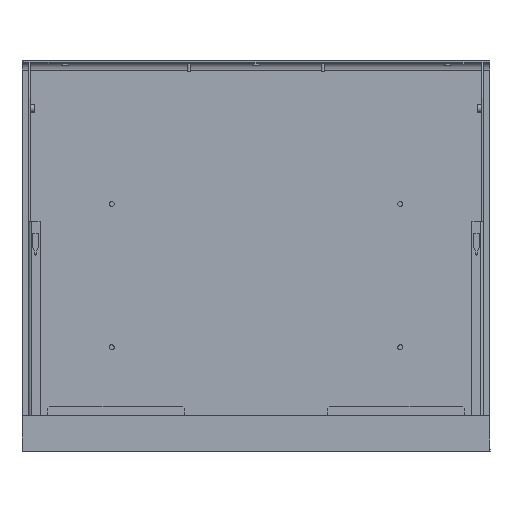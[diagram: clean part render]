
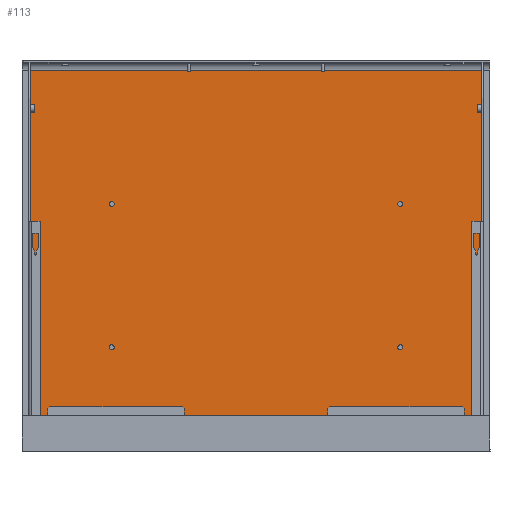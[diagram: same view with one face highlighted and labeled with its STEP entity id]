
A CAD part, front view. The second image highlights one B-rep face of the part: STEP entity #113.
In plain terms, the highlighted planar face has unit normal (0, -1, 0).
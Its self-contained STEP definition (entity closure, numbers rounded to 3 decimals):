
#58 = DIRECTION ( 'NONE',  ( 0., -1., 0. ) ) ;
#113 = ADVANCED_FACE ( 'NONE', ( #4372, #1394, #17023, #12729, #16831 ), #10106, .T. ) ;
#223 = CIRCLE ( 'NONE', #12699, 2.5 ) ;
#498 = EDGE_CURVE ( 'NONE', #11717, #2777, #11948, .T. ) ;
#1095 = DIRECTION ( 'NONE',  ( 0., 0., -1. ) ) ;
#1394 = FACE_BOUND ( 'NONE', #18074, .T. ) ;
#1573 = EDGE_CURVE ( 'NONE', #14203, #11098, #223, .T. ) ;
#1873 = CARTESIAN_POINT ( 'NONE',  ( -301.5, 88.5, 399. ) ) ;
#2156 = DIRECTION ( 'NONE',  ( 0., -1., 0. ) ) ;
#2327 = ORIENTED_EDGE ( 'NONE', *, *, #5386, .F. ) ;
#2337 = CARTESIAN_POINT ( 'NONE',  ( 86., 88.5, 259. ) ) ;
#2356 = CARTESIAN_POINT ( 'NONE',  ( 86., 88.5, 259. ) ) ;
#2568 = VERTEX_POINT ( 'NONE', #5663 ) ;
#2770 = CARTESIAN_POINT ( 'NONE',  ( -216., 88.5, 259. ) ) ;
#2777 = VERTEX_POINT ( 'NONE', #8897 ) ;
#2791 = DIRECTION ( 'NONE',  ( 1., 0., 0. ) ) ;
#2948 = DIRECTION ( 'NONE',  ( 0., -1., 0. ) ) ;
#2991 = LINE ( 'NONE', #4386, #8389 ) ;
#3008 = CARTESIAN_POINT ( 'NONE',  ( 86., 88.5, 109. ) ) ;
#3124 = ORIENTED_EDGE ( 'NONE', *, *, #14367, .T. ) ;
#3464 = AXIS2_PLACEMENT_3D ( 'NONE', #8726, #14415, #13017 ) ;
#3598 = AXIS2_PLACEMENT_3D ( 'NONE', #14196, #2948, #8603 ) ;
#3724 = DIRECTION ( 'NONE',  ( 0., 0., -1. ) ) ;
#3727 = DIRECTION ( 'NONE',  ( 0., 0., -1. ) ) ;
#3769 = AXIS2_PLACEMENT_3D ( 'NONE', #4895, #6388, #14664 ) ;
#3804 = DIRECTION ( 'NONE',  ( 0., 0., -1. ) ) ;
#3805 = VERTEX_POINT ( 'NONE', #7622 ) ;
#3897 = DIRECTION ( 'NONE',  ( 0., -1., 0. ) ) ;
#3929 = DIRECTION ( 'NONE',  ( 0., -1., 0. ) ) ;
#4185 = DIRECTION ( 'NONE',  ( 1., 0., 0. ) ) ;
#4187 = LINE ( 'NONE', #15537, #14533 ) ;
#4216 = EDGE_LOOP ( 'NONE', ( #14906, #12140, #3124, #6599 ) ) ;
#4287 = DIRECTION ( 'NONE',  ( 0., -1., 0. ) ) ;
#4372 = FACE_BOUND ( 'NONE', #5858, .T. ) ;
#4386 = CARTESIAN_POINT ( 'NONE',  ( -301.5, 88.5, 399. ) ) ;
#4580 = EDGE_CURVE ( 'NONE', #3805, #7419, #15204, .T. ) ;
#4895 = CARTESIAN_POINT ( 'NONE',  ( -216., 88.5, 259. ) ) ;
#4956 = CIRCLE ( 'NONE', #8512, 2.5 ) ;
#5386 = EDGE_CURVE ( 'NONE', #2777, #11717, #15669, .T. ) ;
#5443 = CARTESIAN_POINT ( 'NONE',  ( -216., 88.5, 111.5 ) ) ;
#5648 = EDGE_LOOP ( 'NONE', ( #12222, #18166 ) ) ;
#5663 = CARTESIAN_POINT ( 'NONE',  ( -216., 88.5, 106.5 ) ) ;
#5858 = EDGE_LOOP ( 'NONE', ( #12318, #2327 ) ) ;
#6125 = CARTESIAN_POINT ( 'NONE',  ( -216., 88.5, 261.5 ) ) ;
#6388 = DIRECTION ( 'NONE',  ( 0., -1., 0. ) ) ;
#6599 = ORIENTED_EDGE ( 'NONE', *, *, #18124, .T. ) ;
#6952 = EDGE_CURVE ( 'NONE', #11098, #14203, #12477, .T. ) ;
#7021 = CIRCLE ( 'NONE', #3464, 2.5 ) ;
#7419 = VERTEX_POINT ( 'NONE', #7477 ) ;
#7451 = AXIS2_PLACEMENT_3D ( 'NONE', #8168, #3897, #3804 ) ;
#7477 = CARTESIAN_POINT ( 'NONE',  ( 86., 88.5, 256.5 ) ) ;
#7622 = CARTESIAN_POINT ( 'NONE',  ( 86., 88.5, 261.5 ) ) ;
#8033 = VECTOR ( 'NONE', #4185, 1000. ) ;
#8168 = CARTESIAN_POINT ( 'NONE',  ( -216., 88.5, 109. ) ) ;
#8389 = VECTOR ( 'NONE', #13948, 1000. ) ;
#8428 = DIRECTION ( 'NONE',  ( 0., 0., -1. ) ) ;
#8512 = AXIS2_PLACEMENT_3D ( 'NONE', #2356, #3929, #15096 ) ;
#8603 = DIRECTION ( 'NONE',  ( 0., 0., -1. ) ) ;
#8726 = CARTESIAN_POINT ( 'NONE',  ( -216., 88.5, 109. ) ) ;
#8897 = CARTESIAN_POINT ( 'NONE',  ( -216., 88.5, 256.5 ) ) ;
#9200 = EDGE_CURVE ( 'NONE', #16865, #17854, #4187, .T. ) ;
#9375 = DIRECTION ( 'NONE',  ( 0., -1., 0. ) ) ;
#9454 = VERTEX_POINT ( 'NONE', #17106 ) ;
#9796 = CIRCLE ( 'NONE', #7451, 2.5 ) ;
#9994 = VERTEX_POINT ( 'NONE', #10962 ) ;
#10014 = EDGE_CURVE ( 'NONE', #7419, #3805, #4956, .T. ) ;
#10106 = PLANE ( 'NONE',  #15991 ) ;
#10515 = ORIENTED_EDGE ( 'NONE', *, *, #18100, .F. ) ;
#10962 = CARTESIAN_POINT ( 'NONE',  ( -301.5, 88.5, 10. ) ) ;
#11098 = VERTEX_POINT ( 'NONE', #13442 ) ;
#11717 = VERTEX_POINT ( 'NONE', #6125 ) ;
#11795 = EDGE_CURVE ( 'NONE', #2568, #17380, #7021, .T. ) ;
#11934 = ORIENTED_EDGE ( 'NONE', *, *, #10014, .F. ) ;
#11948 = CIRCLE ( 'NONE', #13490, 2.5 ) ;
#12140 = ORIENTED_EDGE ( 'NONE', *, *, #9200, .F. ) ;
#12222 = ORIENTED_EDGE ( 'NONE', *, *, #6952, .F. ) ;
#12318 = ORIENTED_EDGE ( 'NONE', *, *, #498, .F. ) ;
#12477 = CIRCLE ( 'NONE', #3598, 2.5 ) ;
#12524 = LINE ( 'NONE', #13827, #15429 ) ;
#12527 = LINE ( 'NONE', #16736, #8033 ) ;
#12699 = AXIS2_PLACEMENT_3D ( 'NONE', #3008, #2156, #3724 ) ;
#12729 = FACE_BOUND ( 'NONE', #15338, .T. ) ;
#13010 = DIRECTION ( 'NONE',  ( 0., 0., -1. ) ) ;
#13017 = DIRECTION ( 'NONE',  ( 0., 0., -1. ) ) ;
#13442 = CARTESIAN_POINT ( 'NONE',  ( 86., 88.5, 111.5 ) ) ;
#13490 = AXIS2_PLACEMENT_3D ( 'NONE', #2770, #58, #8428 ) ;
#13827 = CARTESIAN_POINT ( 'NONE',  ( 171.5, 88.5, 399. ) ) ;
#13856 = CARTESIAN_POINT ( 'NONE',  ( 171.5, 88.5, 399. ) ) ;
#13948 = DIRECTION ( 'NONE',  ( 0., 0., -1. ) ) ;
#14196 = CARTESIAN_POINT ( 'NONE',  ( 86., 88.5, 109. ) ) ;
#14203 = VERTEX_POINT ( 'NONE', #16482 ) ;
#14367 = EDGE_CURVE ( 'NONE', #16865, #9994, #2991, .T. ) ;
#14415 = DIRECTION ( 'NONE',  ( 0., -1., 0. ) ) ;
#14533 = VECTOR ( 'NONE', #2791, 1000. ) ;
#14654 = ORIENTED_EDGE ( 'NONE', *, *, #4580, .F. ) ;
#14664 = DIRECTION ( 'NONE',  ( 0., 0., -1. ) ) ;
#14906 = ORIENTED_EDGE ( 'NONE', *, *, #17082, .F. ) ;
#15096 = DIRECTION ( 'NONE',  ( 0., 0., -1. ) ) ;
#15204 = CIRCLE ( 'NONE', #15820, 2.5 ) ;
#15338 = EDGE_LOOP ( 'NONE', ( #10515, #16814 ) ) ;
#15429 = VECTOR ( 'NONE', #1095, 1000. ) ;
#15537 = CARTESIAN_POINT ( 'NONE',  ( -310., 88.5, 399. ) ) ;
#15669 = CIRCLE ( 'NONE', #3769, 2.5 ) ;
#15820 = AXIS2_PLACEMENT_3D ( 'NONE', #2337, #9375, #3727 ) ;
#15991 = AXIS2_PLACEMENT_3D ( 'NONE', #18422, #4287, #13010 ) ;
#16482 = CARTESIAN_POINT ( 'NONE',  ( 86., 88.5, 106.5 ) ) ;
#16736 = CARTESIAN_POINT ( 'NONE',  ( -310., 88.5, 10. ) ) ;
#16814 = ORIENTED_EDGE ( 'NONE', *, *, #11795, .F. ) ;
#16831 = FACE_OUTER_BOUND ( 'NONE', #4216, .T. ) ;
#16865 = VERTEX_POINT ( 'NONE', #1873 ) ;
#17023 = FACE_BOUND ( 'NONE', #5648, .T. ) ;
#17082 = EDGE_CURVE ( 'NONE', #17854, #9454, #12524, .T. ) ;
#17106 = CARTESIAN_POINT ( 'NONE',  ( 171.5, 88.5, 10. ) ) ;
#17380 = VERTEX_POINT ( 'NONE', #5443 ) ;
#17854 = VERTEX_POINT ( 'NONE', #13856 ) ;
#18074 = EDGE_LOOP ( 'NONE', ( #14654, #11934 ) ) ;
#18100 = EDGE_CURVE ( 'NONE', #17380, #2568, #9796, .T. ) ;
#18124 = EDGE_CURVE ( 'NONE', #9994, #9454, #12527, .T. ) ;
#18166 = ORIENTED_EDGE ( 'NONE', *, *, #1573, .F. ) ;
#18422 = CARTESIAN_POINT ( 'NONE',  ( -310., 88.5, 364.067 ) ) ;
